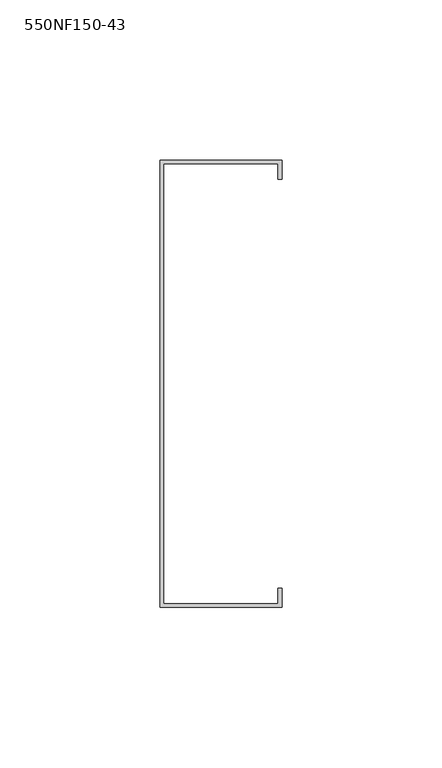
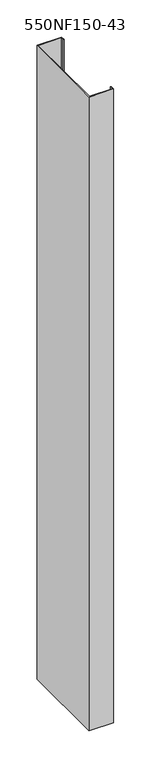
"""IFC4 building model written with IfcOpenShell, lengths in millimetres: column geometry, BIMSF-SSMA-S-Column : 550NF150-43."""

from ifc_helpers import new_model, si_unit, frame, origin, place, context, project, spatial, polyline, outline, extrude, source, transform, mapped, element, save


def column_550nf150_43_49d5b36e(model_context):
    return source(origin(), model_context, "Body", "SweptSolid", [
        extrude(outline(polyline([(-11.9977877, -80.5871249), (-11.9977877, 59.1128751), (26.1022123, 59.1128751), (26.1022123, 53.1879908), (24.952528, 53.1879908), (24.952528, 57.9631908), (-10.8481035, 57.9631908), (-10.8481035, -79.4374407), (24.952528, -79.4374407), (24.952528, -74.6622407), (26.1022123, -74.6622407), (26.1022123, -80.5871249), (-11.9977877, -80.5871249)])), frame((0.0, 0.0, 5525.3929688), z_axis=(0.0, 0.0, 1.0), x_axis=(1.0, 0.0, 0.0)), (0.0, 0.0, 1.0), 1038.8332427),
    ])


if __name__ == "__main__":
    model = new_model("IFC4")
    model_context = context("Model", 3, world=origin())
    ifc_project = project(units=[si_unit("LENGTHUNIT", "METRE", prefix="MILLI")], contexts=[model_context])
    site = spatial("IfcSite", under=ifc_project)
    building = spatial("IfcBuilding", under=site)
    placement = place(None, origin())
    column_550nf150_43_shape = column_550nf150_43_49d5b36e(model_context)
    element("IfcColumn", 1, ObjectType="BIMSF-SSMA-S-Column : 550NF150-43", at=placement, inside=building, context=model_context, shape_type="MappedRepresentation", body=[
        mapped(column_550nf150_43_shape, transform((0.0, 0.0, 0.0), x_axis=(1.0, 0.0, 0.0), y_axis=(0.0, 1.0, 0.0), z_axis=(0.0, 0.0, 1.0))),
    ])
    save(model, "model.ifc")
